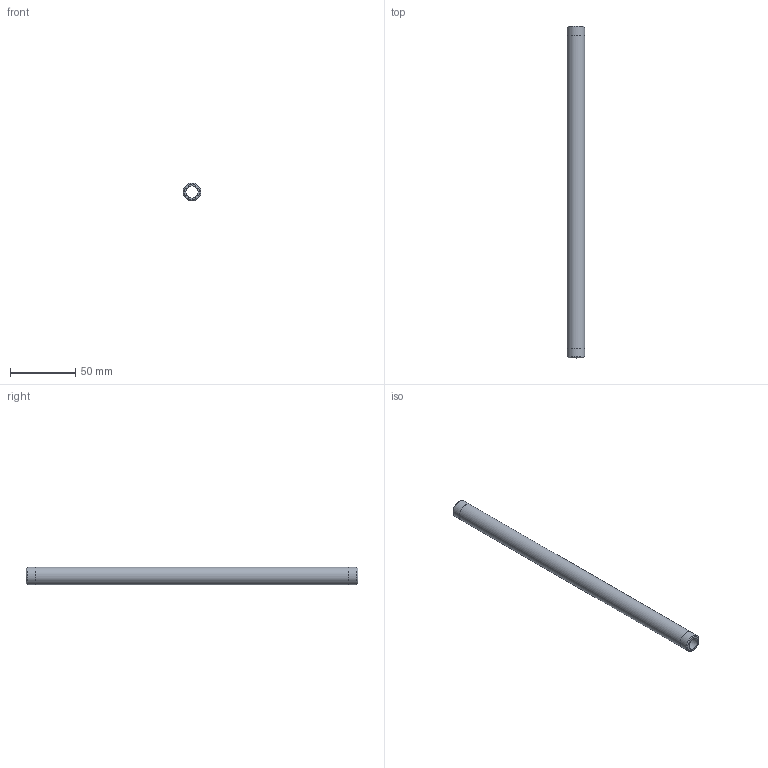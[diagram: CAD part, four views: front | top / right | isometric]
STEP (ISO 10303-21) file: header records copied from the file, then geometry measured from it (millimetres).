
FILE_DESCRIPTION(/* description */ (''),/* implementation_level */ '2;1');
FILE_NAME(/* name */ 'C:/Users/drich/Desktop/SSPN14-10 v1.step',/* time_stamp */ '2020-01-04T13:15:00-06:00',/* author */ (''),/* organization */ (''),/* preprocessor_version */ 'ST-DEVELOPER v18',/* originating_system */ 'Autodesk Translation Framework v8.12.0.6',/* authorisation */ '');
FILE_SCHEMA (('AUTOMOTIVE_DESIGN { 1 0 10303 214 3 1 1 }'));
Length unit declared in the file: inch
Products named in the file (1): SSPN14-10
Bounding box: 13.72 x 254 x 13.72 mm (x, y, z)
Volume: 20436.6 mm3; surface area: 18441.5 mm2
Topology: 1 solids, 1 shells, 10 faces, 24 edges, 18 vertices
Faces by surface type: cylinder 4, plane 4, cone 2
Full cylindrical faces by diameter (mm): 9.246 x1, 13.665 x2, 13.716 x1
Entity records: 353 total; most frequent: DIRECTION 64, CARTESIAN_POINT 53, ORIENTED_EDGE 48, AXIS2_PLACEMENT_3D 29, EDGE_CURVE 24, CIRCLE 18, VERTEX_POINT 18, EDGE_LOOP 14
